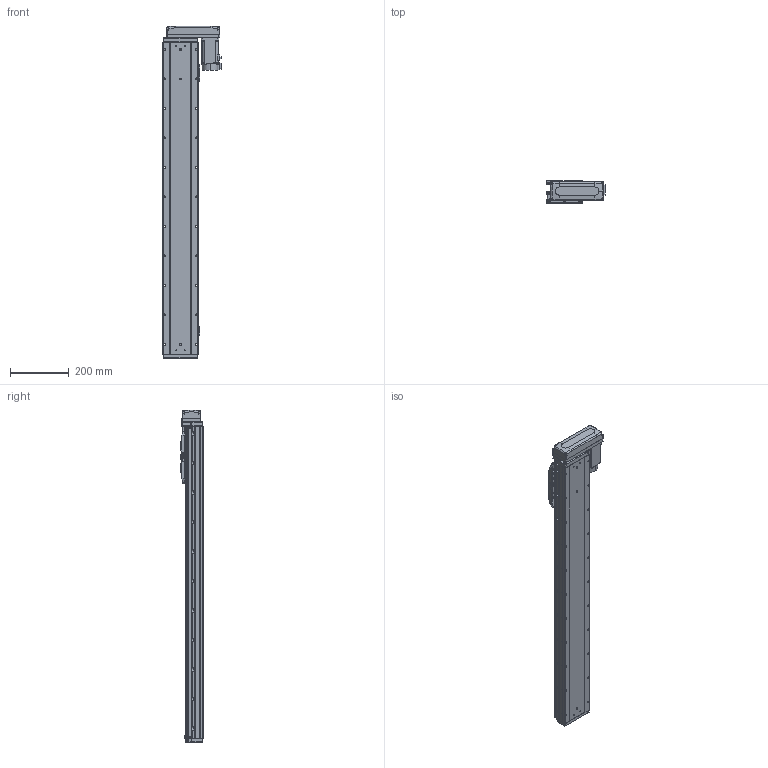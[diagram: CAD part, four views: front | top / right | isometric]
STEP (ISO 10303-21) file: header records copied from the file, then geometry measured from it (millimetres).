
FILE_DESCRIPTION (( 'STEP AP203' ), '1' );
FILE_NAME ('GTH12-850-BL-M40-C4.step', '2023-07-04T10:41:54', ( '微软用户' ), ( '微软中国' ), 'SwSTEP 2.0', 'SolidWorks 2020', '' );
FILE_SCHEMA (( 'CONFIG_CONTROL_DESIGN' ));
Length unit declared in the file: millimetre
Products named in the file (18): GTH50-024; GBT 70.1-M3℅6; GBT96.1-2002 3×0.8; GBT 70.1-M5×16; BTH-M3X5X6; GTH120-001_850; GBT 70.3-M3℅8; hg-kn43j_-s100_; GTH120-003; GTH80-022; CTHA86-033_M40B; GTH120-006; GTH80-028; GTH120-027-1_GTH120-027-2; GTH120-004; GTH50-023; GTH12-850-BL-M40-C4; GTH120-013
Assembly tree (59 placements, depth 2):
  GTH12-850-BL-M40-C4
    GTH120-001_850
    GTH120-003
    GTH120-006
    GTH120-004
    GTH120-013
    GBT 70.1-M3℅6  x14
    GBT 70.1-M5×16  x10
    GBT 70.3-M3℅8  x4
    GTH80-022
    GTH80-028  x2
    GTH50-023  x3
    GTH50-024  x3
    GBT96.1-2002 3×0.8  x6
    BTH-M3X5X6  x8
    hg-kn43j_-s100_
    CTHA86-033_M40B
    GTH120-027-1_GTH120-027-2
Bounding box: 199.8 x 76 x 1125.5 mm (x, y, z)
Volume: 8191078.1 mm3; surface area: 722602.8 mm2
Topology: 61 solids, 61 shells, 2497 faces, 5838 edges, 3583 vertices
Faces by surface type: plane 1278, cylinder 731, cone 300, torus 174, sphere 8, bspline 6
Entity records: 47248 total; most frequent: CARTESIAN_POINT 8004, DIRECTION 7842, ORIENTED_EDGE 7286, EDGE_CURVE 3643, AXIS2_PLACEMENT_3D 2742, VECTOR 2358, LINE 2358, VERTEX_POINT 2304
